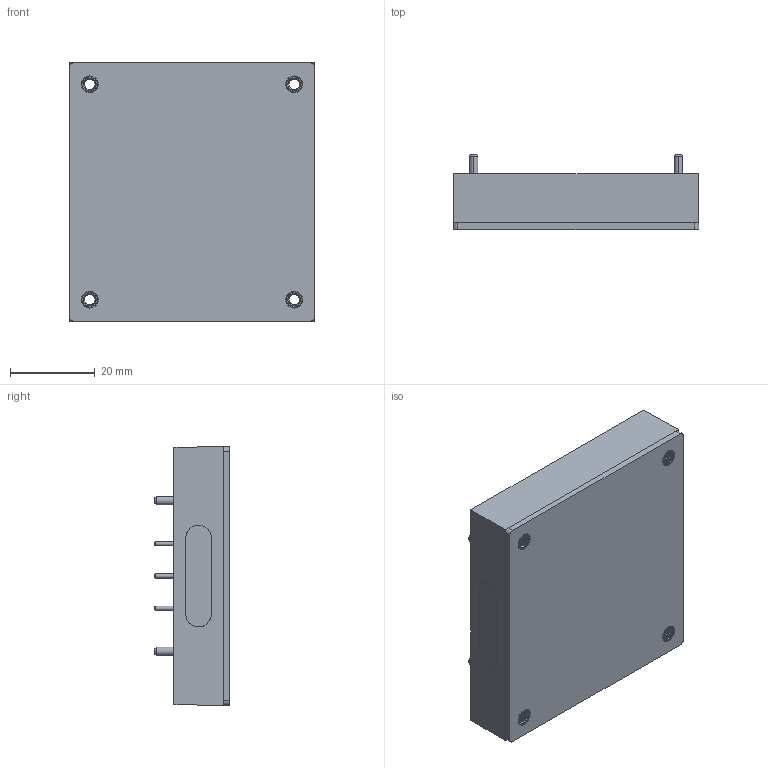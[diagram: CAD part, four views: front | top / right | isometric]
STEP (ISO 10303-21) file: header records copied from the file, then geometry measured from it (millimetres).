
FILE_DESCRIPTION (( 'STEP AP203' ), '1' );
FILE_NAME ('CHB200W ²Õ¦X¹Ï 106,08,02.STEP', '2017-08-02T09:14:52', ( 'SuperXP' ), ( 'mychat' ), 'SwSTEP 2.0', 'SolidWorks 2008', '' );
FILE_SCHEMA (( 'CONFIG_CONTROL_DESIGN' ));
Length unit declared in the file: millimetre
Products named in the file (7): ｶ鷄IN G7211372129 ･ﾜｷNｹﾏ 103,04,17_ｹwｳ]; CHB350 灌膠示意圖 106,01,06; CHB200W 組合圖 106,08,02; PCB 鋁基板 1.5mm 103,04,17; CHB150W M3x12.6銅柱G75J1190011 示意圖 103,04,17; CHB150W CASE HB-6 (M-C425-02-M)G5117110012(加刻字)
Assembly tree (13 placements, depth 3):
  CHB200W 組合圖 106,08,02
    PCB 鋁基板 1.5mm 103,04,17
      CHB150W M3x12.6銅柱G75J1190011 示意圖 103,04,17  x4
      PCB 鋁基板 1.5mm 103,04,17
    ｶ鷄IN G7211372129 ･ﾜｷNｹﾏ 103,04,17_ｹwｳ]  x5
    CHB350 灌膠示意圖 106,01,06
    CHB150W CASE HB-6 (M-C425-02-M)G5117110012(加刻字)
Bounding box: 57.9 x 17.7 x 61 mm (x, y, z)
Volume: 45573.1 mm3; surface area: 30851.7 mm2
Topology: 12 solids, 12 shells, 1203 faces, 3207 edges, 2110 vertices
Faces by surface type: plane 490, cylinder 370, cone 158, bspline 155, torus 30
Entity records: 34127 total; most frequent: CARTESIAN_POINT 15875, ORIENTED_EDGE 3904, DIRECTION 3022, EDGE_CURVE 1952, VERTEX_POINT 1286, VECTOR 1216, LINE 1216, AXIS2_PLACEMENT_3D 903
